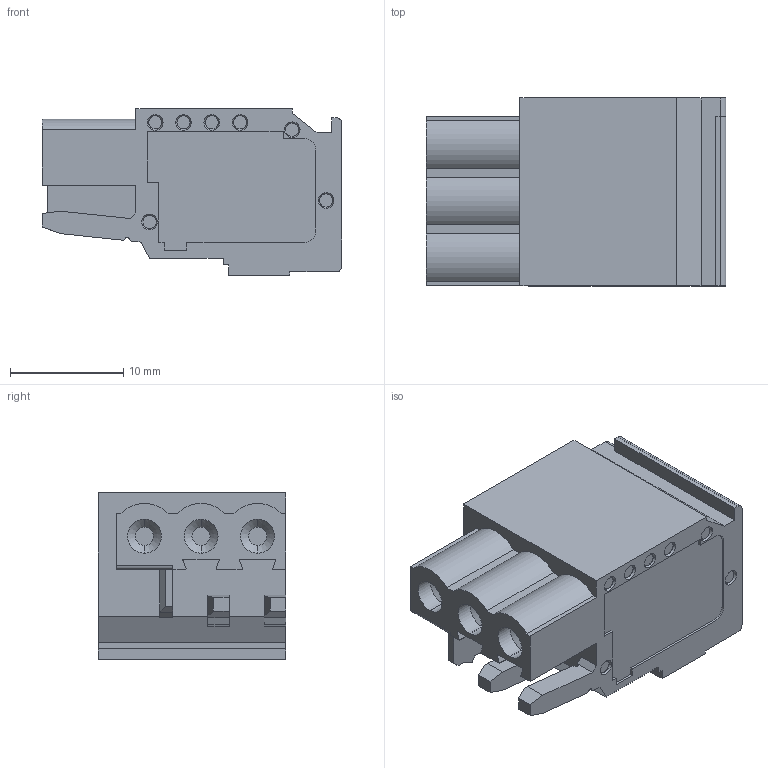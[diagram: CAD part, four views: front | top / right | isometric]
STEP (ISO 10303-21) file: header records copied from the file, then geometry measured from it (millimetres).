
FILE_DESCRIPTION((''),'2;1');
FILE_NAME('3','2019-05-06T',('zhenbing.lai'),(''),'CREO PARAMETRIC BY PTC INC, 2016260','CREO PARAMETRIC BY PTC INC, 2016260','');
FILE_SCHEMA(('CONFIG_CONTROL_DESIGN'));
Length unit declared in the file: millimetre
Products named in the file (1): 3
Bounding box: 26.5 x 16.6 x 14.7 mm (x, y, z)
Volume: 4462.4 mm3; surface area: 2405.9 mm2
Topology: 1 solids, 4 shells, 341 faces, 868 edges, 558 vertices
Faces by surface type: plane 194, cylinder 71, cone 40, torus 20, bspline 12, sphere 4
Entity records: 10937 total; most frequent: CARTESIAN_POINT 2639, ORIENTED_EDGE 1728, DIRECTION 1681, EDGE_CURVE 864, VECTOR 577, LINE 577, VERTEX_POINT 558, AXIS2_PLACEMENT_3D 552
